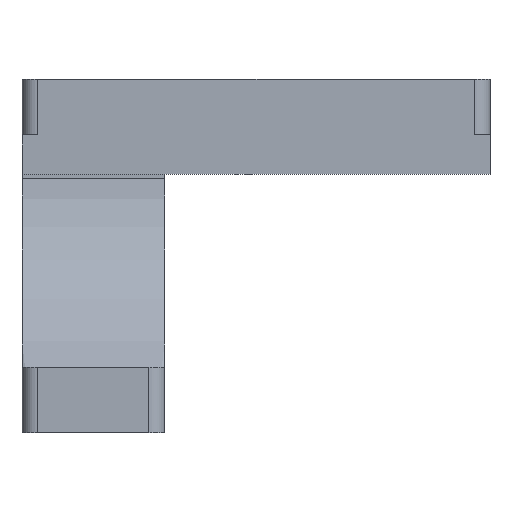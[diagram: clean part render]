
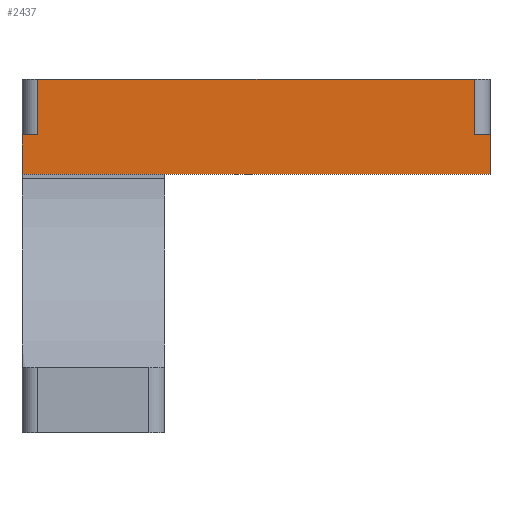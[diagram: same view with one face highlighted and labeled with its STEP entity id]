
A CAD part, front view. The second image highlights one B-rep face of the part: STEP entity #2437.
In plain terms, the highlighted planar face has unit normal (0, -1, 0).
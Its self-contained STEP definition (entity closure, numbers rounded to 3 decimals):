
#45 = PLANE('',#46);
#46 = AXIS2_PLACEMENT_3D('',#47,#48,#49);
#47 = CARTESIAN_POINT('',(-9.,0.,0.));
#48 = DIRECTION('',(1.,0.,0.));
#49 = DIRECTION('',(-0.,0.,1.));
#577 = PLANE('',#578);
#578 = AXIS2_PLACEMENT_3D('',#579,#580,#581);
#579 = CARTESIAN_POINT('',(-9.,-13.,45.3));
#580 = DIRECTION('',(0.,0.,1.));
#581 = DIRECTION('',(1.,0.,0.));
#605 = CYLINDRICAL_SURFACE('',#606,2.);
#606 = AXIS2_PLACEMENT_3D('',#607,#608,#609);
#607 = CARTESIAN_POINT('',(-7.,-16.,37.3));
#608 = DIRECTION('',(0.,0.,1.));
#609 = DIRECTION('',(-1.,-0.,0.));
#618 = VERTEX_POINT('',#619);
#619 = CARTESIAN_POINT('',(-9.,-18.,38.3));
#633 = PLANE('',#634);
#634 = AXIS2_PLACEMENT_3D('',#635,#636,#637);
#635 = CARTESIAN_POINT('',(-9.,-18.,38.3));
#636 = DIRECTION('',(0.,0.,1.));
#637 = DIRECTION('',(1.,0.,0.));
#645 = EDGE_CURVE('',#646,#618,#648,.T.);
#646 = VERTEX_POINT('',#647);
#647 = CARTESIAN_POINT('',(-9.,-18.,33.3));
#648 = SURFACE_CURVE('',#649,(#653,#660),.PCURVE_S1.);
#649 = LINE('',#650,#651);
#650 = CARTESIAN_POINT('',(-9.,-18.,33.3));
#651 = VECTOR('',#652,1.);
#652 = DIRECTION('',(0.,0.,1.));
#653 = PCURVE('',#45,#654);
#654 = DEFINITIONAL_REPRESENTATION('',(#655),#659);
#655 = LINE('',#656,#657);
#656 = CARTESIAN_POINT('',(33.3,18.));
#657 = VECTOR('',#658,1.);
#658 = DIRECTION('',(1.,0.));
#659 = ( GEOMETRIC_REPRESENTATION_CONTEXT(2) 
PARAMETRIC_REPRESENTATION_CONTEXT() REPRESENTATION_CONTEXT('2D SPACE',''
  ) );
#660 = PCURVE('',#661,#666);
#661 = PLANE('',#662);
#662 = AXIS2_PLACEMENT_3D('',#663,#664,#665);
#663 = CARTESIAN_POINT('',(-9.,-18.,37.3));
#664 = DIRECTION('',(0.,1.,0.));
#665 = DIRECTION('',(0.,0.,1.));
#666 = DEFINITIONAL_REPRESENTATION('',(#667),#671);
#667 = LINE('',#668,#669);
#668 = CARTESIAN_POINT('',(-4.,0.));
#669 = VECTOR('',#670,1.);
#670 = DIRECTION('',(1.,0.));
#671 = ( GEOMETRIC_REPRESENTATION_CONTEXT(2) 
PARAMETRIC_REPRESENTATION_CONTEXT() REPRESENTATION_CONTEXT('2D SPACE',''
  ) );
#689 = PLANE('',#690);
#690 = AXIS2_PLACEMENT_3D('',#691,#692,#693);
#691 = CARTESIAN_POINT('',(-9.,-18.,33.3));
#692 = DIRECTION('',(0.,0.,1.));
#693 = DIRECTION('',(1.,0.,0.));
#1610 = PLANE('',#1611);
#1611 = AXIS2_PLACEMENT_3D('',#1612,#1613,#1614);
#1612 = CARTESIAN_POINT('',(50.,-18.,37.3));
#1613 = DIRECTION('',(1.,0.,0.));
#1614 = DIRECTION('',(0.,0.,1.));
#2116 = VERTEX_POINT('',#2117);
#2117 = CARTESIAN_POINT('',(-7.,-18.,45.3));
#2139 = EDGE_CURVE('',#2116,#2140,#2142,.T.);
#2140 = VERTEX_POINT('',#2141);
#2141 = CARTESIAN_POINT('',(48.,-18.,45.3));
#2142 = SURFACE_CURVE('',#2143,(#2147,#2154),.PCURVE_S1.);
#2143 = LINE('',#2144,#2145);
#2144 = CARTESIAN_POINT('',(-9.,-18.,45.3));
#2145 = VECTOR('',#2146,1.);
#2146 = DIRECTION('',(1.,0.,0.));
#2147 = PCURVE('',#577,#2148);
#2148 = DEFINITIONAL_REPRESENTATION('',(#2149),#2153);
#2149 = LINE('',#2150,#2151);
#2150 = CARTESIAN_POINT('',(0.,-5.));
#2151 = VECTOR('',#2152,1.);
#2152 = DIRECTION('',(1.,0.));
#2153 = ( GEOMETRIC_REPRESENTATION_CONTEXT(2) 
PARAMETRIC_REPRESENTATION_CONTEXT() REPRESENTATION_CONTEXT('2D SPACE',''
  ) );
#2154 = PCURVE('',#661,#2155);
#2155 = DEFINITIONAL_REPRESENTATION('',(#2156),#2160);
#2156 = LINE('',#2157,#2158);
#2157 = CARTESIAN_POINT('',(8.,0.));
#2158 = VECTOR('',#2159,1.);
#2159 = DIRECTION('',(0.,1.));
#2160 = ( GEOMETRIC_REPRESENTATION_CONTEXT(2) 
PARAMETRIC_REPRESENTATION_CONTEXT() REPRESENTATION_CONTEXT('2D SPACE',''
  ) );
#2183 = CYLINDRICAL_SURFACE('',#2184,2.);
#2184 = AXIS2_PLACEMENT_3D('',#2185,#2186,#2187);
#2185 = CARTESIAN_POINT('',(48.,-16.,37.3));
#2186 = DIRECTION('',(0.,0.,1.));
#2187 = DIRECTION('',(1.,0.,-0.));
#2367 = VERTEX_POINT('',#2368);
#2368 = CARTESIAN_POINT('',(-7.,-18.,38.3));
#2390 = EDGE_CURVE('',#2367,#2116,#2391,.T.);
#2391 = SURFACE_CURVE('',#2392,(#2396,#2403),.PCURVE_S1.);
#2392 = LINE('',#2393,#2394);
#2393 = CARTESIAN_POINT('',(-7.,-18.,37.3));
#2394 = VECTOR('',#2395,1.);
#2395 = DIRECTION('',(0.,0.,1.));
#2396 = PCURVE('',#605,#2397);
#2397 = DEFINITIONAL_REPRESENTATION('',(#2398),#2402);
#2398 = LINE('',#2399,#2400);
#2399 = CARTESIAN_POINT('',(1.571,0.));
#2400 = VECTOR('',#2401,1.);
#2401 = DIRECTION('',(0.,1.));
#2402 = ( GEOMETRIC_REPRESENTATION_CONTEXT(2) 
PARAMETRIC_REPRESENTATION_CONTEXT() REPRESENTATION_CONTEXT('2D SPACE',''
  ) );
#2403 = PCURVE('',#661,#2404);
#2404 = DEFINITIONAL_REPRESENTATION('',(#2405),#2409);
#2405 = LINE('',#2406,#2407);
#2406 = CARTESIAN_POINT('',(0.,2.));
#2407 = VECTOR('',#2408,1.);
#2408 = DIRECTION('',(1.,0.));
#2409 = ( GEOMETRIC_REPRESENTATION_CONTEXT(2) 
PARAMETRIC_REPRESENTATION_CONTEXT() REPRESENTATION_CONTEXT('2D SPACE',''
  ) );
#2416 = EDGE_CURVE('',#618,#2367,#2417,.T.);
#2417 = SURFACE_CURVE('',#2418,(#2422,#2429),.PCURVE_S1.);
#2418 = LINE('',#2419,#2420);
#2419 = CARTESIAN_POINT('',(-9.,-18.,38.3));
#2420 = VECTOR('',#2421,1.);
#2421 = DIRECTION('',(1.,0.,0.));
#2422 = PCURVE('',#633,#2423);
#2423 = DEFINITIONAL_REPRESENTATION('',(#2424),#2428);
#2424 = LINE('',#2425,#2426);
#2425 = CARTESIAN_POINT('',(0.,0.));
#2426 = VECTOR('',#2427,1.);
#2427 = DIRECTION('',(1.,0.));
#2428 = ( GEOMETRIC_REPRESENTATION_CONTEXT(2) 
PARAMETRIC_REPRESENTATION_CONTEXT() REPRESENTATION_CONTEXT('2D SPACE',''
  ) );
#2429 = PCURVE('',#661,#2430);
#2430 = DEFINITIONAL_REPRESENTATION('',(#2431),#2435);
#2431 = LINE('',#2432,#2433);
#2432 = CARTESIAN_POINT('',(1.,0.));
#2433 = VECTOR('',#2434,1.);
#2434 = DIRECTION('',(0.,1.));
#2435 = ( GEOMETRIC_REPRESENTATION_CONTEXT(2) 
PARAMETRIC_REPRESENTATION_CONTEXT() REPRESENTATION_CONTEXT('2D SPACE',''
  ) );
#2437 = ADVANCED_FACE('',(#2438),#661,.F.);
#2438 = FACE_BOUND('',#2439,.F.);
#2439 = EDGE_LOOP('',(#2440,#2463,#2491,#2514,#2535,#2536,#2537,#2538));
#2440 = ORIENTED_EDGE('',*,*,#2441,.F.);
#2441 = EDGE_CURVE('',#2442,#2140,#2444,.T.);
#2442 = VERTEX_POINT('',#2443);
#2443 = CARTESIAN_POINT('',(48.,-18.,38.3));
#2444 = SURFACE_CURVE('',#2445,(#2449,#2456),.PCURVE_S1.);
#2445 = LINE('',#2446,#2447);
#2446 = CARTESIAN_POINT('',(48.,-18.,37.3));
#2447 = VECTOR('',#2448,1.);
#2448 = DIRECTION('',(0.,0.,1.));
#2449 = PCURVE('',#661,#2450);
#2450 = DEFINITIONAL_REPRESENTATION('',(#2451),#2455);
#2451 = LINE('',#2452,#2453);
#2452 = CARTESIAN_POINT('',(0.,57.));
#2453 = VECTOR('',#2454,1.);
#2454 = DIRECTION('',(1.,0.));
#2455 = ( GEOMETRIC_REPRESENTATION_CONTEXT(2) 
PARAMETRIC_REPRESENTATION_CONTEXT() REPRESENTATION_CONTEXT('2D SPACE',''
  ) );
#2456 = PCURVE('',#2183,#2457);
#2457 = DEFINITIONAL_REPRESENTATION('',(#2458),#2462);
#2458 = LINE('',#2459,#2460);
#2459 = CARTESIAN_POINT('',(-1.571,0.));
#2460 = VECTOR('',#2461,1.);
#2461 = DIRECTION('',(-0.,1.));
#2462 = ( GEOMETRIC_REPRESENTATION_CONTEXT(2) 
PARAMETRIC_REPRESENTATION_CONTEXT() REPRESENTATION_CONTEXT('2D SPACE',''
  ) );
#2463 = ORIENTED_EDGE('',*,*,#2464,.T.);
#2464 = EDGE_CURVE('',#2442,#2465,#2467,.T.);
#2465 = VERTEX_POINT('',#2466);
#2466 = CARTESIAN_POINT('',(50.,-18.,38.3));
#2467 = SURFACE_CURVE('',#2468,(#2472,#2479),.PCURVE_S1.);
#2468 = LINE('',#2469,#2470);
#2469 = CARTESIAN_POINT('',(-9.,-18.,38.3));
#2470 = VECTOR('',#2471,1.);
#2471 = DIRECTION('',(1.,0.,0.));
#2472 = PCURVE('',#661,#2473);
#2473 = DEFINITIONAL_REPRESENTATION('',(#2474),#2478);
#2474 = LINE('',#2475,#2476);
#2475 = CARTESIAN_POINT('',(1.,0.));
#2476 = VECTOR('',#2477,1.);
#2477 = DIRECTION('',(0.,1.));
#2478 = ( GEOMETRIC_REPRESENTATION_CONTEXT(2) 
PARAMETRIC_REPRESENTATION_CONTEXT() REPRESENTATION_CONTEXT('2D SPACE',''
  ) );
#2479 = PCURVE('',#2480,#2485);
#2480 = PLANE('',#2481);
#2481 = AXIS2_PLACEMENT_3D('',#2482,#2483,#2484);
#2482 = CARTESIAN_POINT('',(-9.,-18.,38.3));
#2483 = DIRECTION('',(0.,0.,1.));
#2484 = DIRECTION('',(1.,0.,0.));
#2485 = DEFINITIONAL_REPRESENTATION('',(#2486),#2490);
#2486 = LINE('',#2487,#2488);
#2487 = CARTESIAN_POINT('',(0.,0.));
#2488 = VECTOR('',#2489,1.);
#2489 = DIRECTION('',(1.,0.));
#2490 = ( GEOMETRIC_REPRESENTATION_CONTEXT(2) 
PARAMETRIC_REPRESENTATION_CONTEXT() REPRESENTATION_CONTEXT('2D SPACE',''
  ) );
#2491 = ORIENTED_EDGE('',*,*,#2492,.F.);
#2492 = EDGE_CURVE('',#2493,#2465,#2495,.T.);
#2493 = VERTEX_POINT('',#2494);
#2494 = CARTESIAN_POINT('',(50.,-18.,33.3));
#2495 = SURFACE_CURVE('',#2496,(#2500,#2507),.PCURVE_S1.);
#2496 = LINE('',#2497,#2498);
#2497 = CARTESIAN_POINT('',(50.,-18.,33.3));
#2498 = VECTOR('',#2499,1.);
#2499 = DIRECTION('',(0.,0.,1.));
#2500 = PCURVE('',#661,#2501);
#2501 = DEFINITIONAL_REPRESENTATION('',(#2502),#2506);
#2502 = LINE('',#2503,#2504);
#2503 = CARTESIAN_POINT('',(-4.,59.));
#2504 = VECTOR('',#2505,1.);
#2505 = DIRECTION('',(1.,0.));
#2506 = ( GEOMETRIC_REPRESENTATION_CONTEXT(2) 
PARAMETRIC_REPRESENTATION_CONTEXT() REPRESENTATION_CONTEXT('2D SPACE',''
  ) );
#2507 = PCURVE('',#1610,#2508);
#2508 = DEFINITIONAL_REPRESENTATION('',(#2509),#2513);
#2509 = LINE('',#2510,#2511);
#2510 = CARTESIAN_POINT('',(-4.,0.));
#2511 = VECTOR('',#2512,1.);
#2512 = DIRECTION('',(1.,0.));
#2513 = ( GEOMETRIC_REPRESENTATION_CONTEXT(2) 
PARAMETRIC_REPRESENTATION_CONTEXT() REPRESENTATION_CONTEXT('2D SPACE',''
  ) );
#2514 = ORIENTED_EDGE('',*,*,#2515,.F.);
#2515 = EDGE_CURVE('',#646,#2493,#2516,.T.);
#2516 = SURFACE_CURVE('',#2517,(#2521,#2528),.PCURVE_S1.);
#2517 = LINE('',#2518,#2519);
#2518 = CARTESIAN_POINT('',(-9.,-18.,33.3));
#2519 = VECTOR('',#2520,1.);
#2520 = DIRECTION('',(1.,0.,0.));
#2521 = PCURVE('',#661,#2522);
#2522 = DEFINITIONAL_REPRESENTATION('',(#2523),#2527);
#2523 = LINE('',#2524,#2525);
#2524 = CARTESIAN_POINT('',(-4.,0.));
#2525 = VECTOR('',#2526,1.);
#2526 = DIRECTION('',(0.,1.));
#2527 = ( GEOMETRIC_REPRESENTATION_CONTEXT(2) 
PARAMETRIC_REPRESENTATION_CONTEXT() REPRESENTATION_CONTEXT('2D SPACE',''
  ) );
#2528 = PCURVE('',#689,#2529);
#2529 = DEFINITIONAL_REPRESENTATION('',(#2530),#2534);
#2530 = LINE('',#2531,#2532);
#2531 = CARTESIAN_POINT('',(0.,0.));
#2532 = VECTOR('',#2533,1.);
#2533 = DIRECTION('',(1.,0.));
#2534 = ( GEOMETRIC_REPRESENTATION_CONTEXT(2) 
PARAMETRIC_REPRESENTATION_CONTEXT() REPRESENTATION_CONTEXT('2D SPACE',''
  ) );
#2535 = ORIENTED_EDGE('',*,*,#645,.T.);
#2536 = ORIENTED_EDGE('',*,*,#2416,.T.);
#2537 = ORIENTED_EDGE('',*,*,#2390,.T.);
#2538 = ORIENTED_EDGE('',*,*,#2139,.T.);
